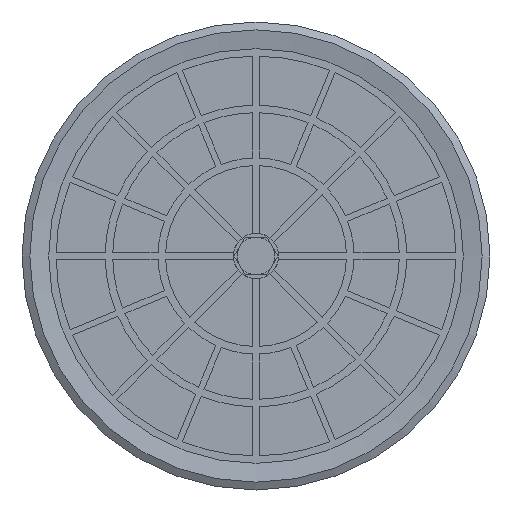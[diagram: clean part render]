
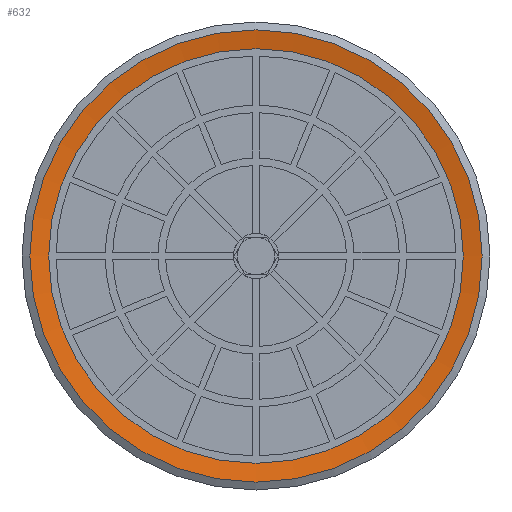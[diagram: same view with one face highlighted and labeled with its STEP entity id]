
A CAD part, front view. The second image highlights one B-rep face of the part: STEP entity #632.
In plain terms, the highlighted conical face has half-angle 80 degrees and reference radius 15 mm.
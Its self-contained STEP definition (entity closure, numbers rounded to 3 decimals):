
#632=ADVANCED_FACE('',(#1200,#1201),#1202,.F.);
#1200=FACE_BOUND('',#1978,.T.);
#1201=FACE_OUTER_BOUND('',#1979,.T.);
#1202=CONICAL_SURFACE('',#1980,15.0,1.396);
#1978=EDGE_LOOP('',(#3568));
#1979=EDGE_LOOP('',(#3569));
#1980=AXIS2_PLACEMENT_3D('',#3570,#3571,#3572);
#3568=ORIENTED_EDGE('',*,*,#5293,.T.);
#3569=ORIENTED_EDGE('',*,*,#5294,.F.);
#3570=CARTESIAN_POINT('',(0.0,0.,0.));
#3571=DIRECTION('',(0.0,0.,-1.0));
#3572=DIRECTION('',(0.0,1.0,0.));
#5293=EDGE_CURVE('',#6363,#6363,#6364,.T.);
#5294=EDGE_CURVE('',#6365,#6365,#6366,.T.);
#6363=VERTEX_POINT('',#8249);
#6364=CIRCLE('',#8250,13.75);
#6365=VERTEX_POINT('',#8251);
#6366=CIRCLE('',#8252,15.0);
#8249=CARTESIAN_POINT('',(0.0,-13.75,0.22));
#8250=AXIS2_PLACEMENT_3D('',#9625,#9626,#9627);
#8251=CARTESIAN_POINT('',(0.0,-15.0,0.));
#8252=AXIS2_PLACEMENT_3D('',#9628,#9629,#9630);
#9625=CARTESIAN_POINT('',(0.0,0.,0.22));
#9626=DIRECTION('',(0.0,0.,1.0));
#9627=DIRECTION('',(0.0,-1.0,0.));
#9628=CARTESIAN_POINT('',(0.0,0.,0.));
#9629=DIRECTION('',(0.0,0.,1.0));
#9630=DIRECTION('',(0.0,-1.0,0.));
